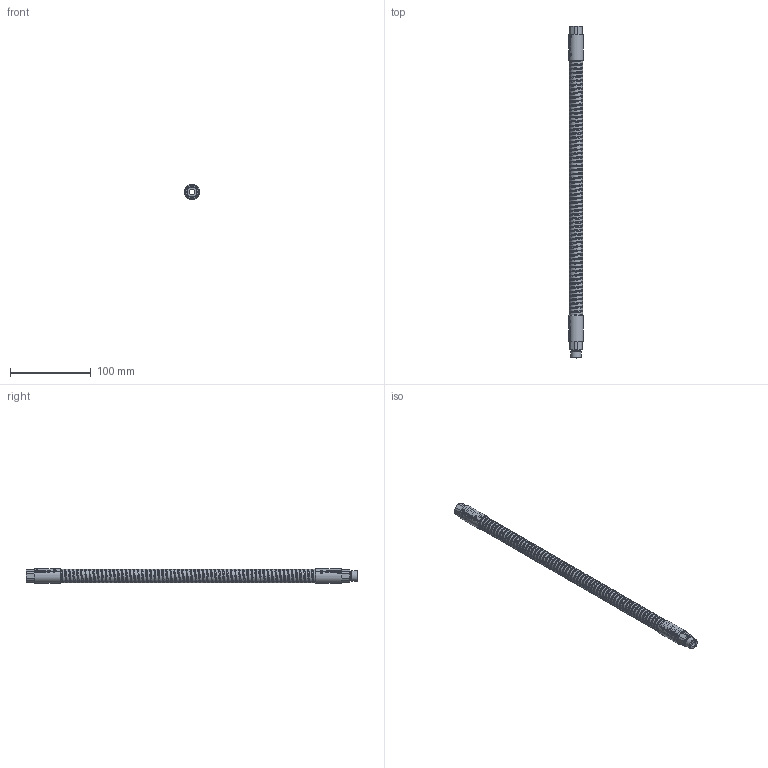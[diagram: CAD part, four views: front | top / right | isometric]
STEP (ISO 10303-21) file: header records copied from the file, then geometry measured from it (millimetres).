
FILE_DESCRIPTION (( 'STEP AP203' ), '1' );
FILE_NAME ('FB14-400.STEP', '2019-09-10T05:02:52', ( '' ), ( '' ), 'SwSTEP 2.0', 'SolidWorks 2016', '' );
FILE_SCHEMA (( 'CONFIG_CONTROL_DESIGN' ));
Products named in the file (1): FB14-400
Bounding box: 18.48 x 410 x 18.48 mm (x, y, z)
Surface area: 39908.1 mm2 (no closed solid volume)
Topology: 0 solids, 6 shells, 158 faces, 1506 edges, 1356 vertices
Faces by surface type: cylinder 96, cone 20, torus 18, plane 18, bspline 6
Entity records: 48588 total; most frequent: CARTESIAN_POINT 39500, ORIENTED_EDGE 2924, EDGE_CURVE 1506, VERTEX_POINT 1356, B_SPLINE_CURVE_WITH_KNOTS 1250, DIRECTION 665, AXIS2_PLACEMENT_3D 263, EDGE_LOOP 170
